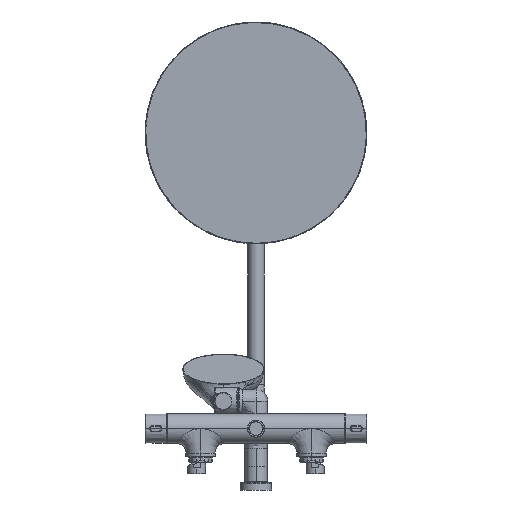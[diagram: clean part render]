
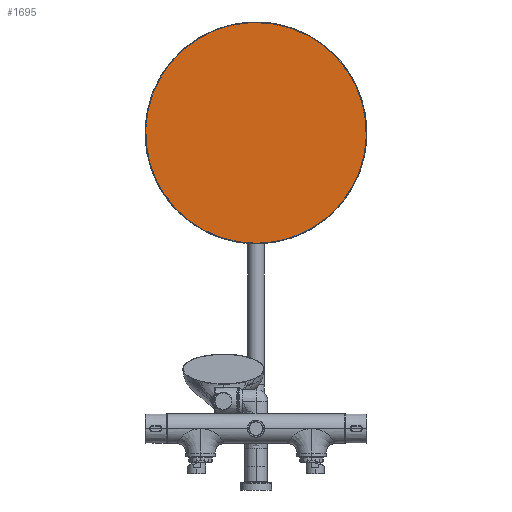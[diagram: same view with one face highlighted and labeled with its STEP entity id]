
A CAD part, front view. The second image highlights one B-rep face of the part: STEP entity #1695.
In plain terms, the highlighted planar face has unit normal (0, -1, 0).
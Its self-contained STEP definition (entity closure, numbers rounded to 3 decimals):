
#1340 = VERTEX_POINT ( 'NONE', #47149 ) ;
#1695 = ADVANCED_FACE ( 'NONE', ( #40995 ), #11870, .T. ) ;
#2253 = CARTESIAN_POINT ( 'NONE',  ( 0., 1112.297, 549.199 ) ) ;
#3445 =( BOUNDED_CURVE ( )  B_SPLINE_CURVE ( 3, ( #9149, #9945, #13966, #6057 ),
 .UNSPECIFIED., .F., .T. ) 
 B_SPLINE_CURVE_WITH_KNOTS ( ( 4, 4 ),
 ( 0.001, 1. ),
 .UNSPECIFIED. ) 
 CURVE ( )  GEOMETRIC_REPRESENTATION_ITEM ( )  RATIONAL_B_SPLINE_CURVE ( ( 1., 0.335, 0.335, 1. ) ) 
 REPRESENTATION_ITEM ( '' )  );
#3944 = EDGE_CURVE ( 'NONE', #22217, #1340, #3445, .T. ) ;
#4256 = CARTESIAN_POINT ( 'NONE',  ( 0., 1112.297, 250.801 ) ) ;
#5981 = CARTESIAN_POINT ( 'NONE',  ( 0.655, 1112.297, 549.197 ) ) ;
#6057 = CARTESIAN_POINT ( 'NONE',  ( 0., 1112.297, 549.199 ) ) ;
#6584 = CARTESIAN_POINT ( 'NONE',  ( 0., 1112.297, 250.801 ) ) ;
#8766 = CARTESIAN_POINT ( 'NONE',  ( -0.655, 1112.297, 250.803 ) ) ;
#8876 = ORIENTED_EDGE ( 'NONE', *, *, #3944, .F. ) ;
#9149 = CARTESIAN_POINT ( 'NONE',  ( -0.655, 1112.297, 250.803 ) ) ;
#9945 = CARTESIAN_POINT ( 'NONE',  ( -297.745, 1112.297, 252.107 ) ) ;
#11870 = PLANE ( 'NONE',  #17768 ) ;
#13966 = CARTESIAN_POINT ( 'NONE',  ( -297.093, 1112.297, 549.199 ) ) ;
#15193 = ORIENTED_EDGE ( 'NONE', *, *, #42367, .F. ) ;
#15579 = DIRECTION ( 'NONE',  ( 0., 0., -1. ) ) ;
#16894 = EDGE_LOOP ( 'NONE', ( #37975, #8876, #43722, #15193 ) ) ;
#17617 = CARTESIAN_POINT ( 'NONE',  ( 0.437, 1112.297, 549.198 ) ) ;
#17768 = AXIS2_PLACEMENT_3D ( 'NONE', #29953, #41150, #15579 ) ;
#18054 = CARTESIAN_POINT ( 'NONE',  ( -0.218, 1112.297, 250.801 ) ) ;
#18808 = VERTEX_POINT ( 'NONE', #36979 ) ;
#19140 = CARTESIAN_POINT ( 'NONE',  ( 0.655, 1112.297, 549.197 ) ) ;
#22217 = VERTEX_POINT ( 'NONE', #8766 ) ;
#23287 =( BOUNDED_CURVE ( )  B_SPLINE_CURVE ( 3, ( #2253, #47223, #17617, #5981 ),
 .UNSPECIFIED., .F., .F. ) 
 B_SPLINE_CURVE_WITH_KNOTS ( ( 4, 4 ),
 ( 0., 0.001 ),
 .UNSPECIFIED. ) 
 CURVE ( )  GEOMETRIC_REPRESENTATION_ITEM ( )  RATIONAL_B_SPLINE_CURVE ( ( 1., 1., 1., 1. ) ) 
 REPRESENTATION_ITEM ( '' )  );
#24810 = EDGE_CURVE ( 'NONE', #1340, #27359, #23287, .T. ) ;
#26186 =( BOUNDED_CURVE ( )  B_SPLINE_CURVE ( 3, ( #6584, #18054, #44093, #29326 ),
 .UNSPECIFIED., .F., .F. ) 
 B_SPLINE_CURVE_WITH_KNOTS ( ( 4, 4 ),
 ( 0., 0.001 ),
 .UNSPECIFIED. ) 
 CURVE ( )  GEOMETRIC_REPRESENTATION_ITEM ( )  RATIONAL_B_SPLINE_CURVE ( ( 1., 1., 1., 1. ) ) 
 REPRESENTATION_ITEM ( '' )  );
#26790 =( BOUNDED_CURVE ( )  B_SPLINE_CURVE ( 3, ( #28313, #40829, #44520, #4256 ),
 .UNSPECIFIED., .F., .F. ) 
 B_SPLINE_CURVE_WITH_KNOTS ( ( 4, 4 ),
 ( 0.001, 1. ),
 .UNSPECIFIED. ) 
 CURVE ( )  GEOMETRIC_REPRESENTATION_ITEM ( )  RATIONAL_B_SPLINE_CURVE ( ( 1., 0.335, 0.335, 1. ) ) 
 REPRESENTATION_ITEM ( '' )  );
#27359 = VERTEX_POINT ( 'NONE', #19140 ) ;
#28313 = CARTESIAN_POINT ( 'NONE',  ( 0.655, 1112.297, 549.197 ) ) ;
#29326 = CARTESIAN_POINT ( 'NONE',  ( -0.655, 1112.297, 250.803 ) ) ;
#29953 = CARTESIAN_POINT ( 'NONE',  ( 0., 1112.297, 400. ) ) ;
#36979 = CARTESIAN_POINT ( 'NONE',  ( 0., 1112.297, 250.801 ) ) ;
#37975 = ORIENTED_EDGE ( 'NONE', *, *, #24810, .F. ) ;
#40829 = CARTESIAN_POINT ( 'NONE',  ( 297.745, 1112.297, 547.893 ) ) ;
#40995 = FACE_OUTER_BOUND ( 'NONE', #16894, .T. ) ;
#41150 = DIRECTION ( 'NONE',  ( 0., -1., 0. ) ) ;
#42367 = EDGE_CURVE ( 'NONE', #27359, #18808, #26790, .T. ) ;
#43722 = ORIENTED_EDGE ( 'NONE', *, *, #44619, .F. ) ;
#44093 = CARTESIAN_POINT ( 'NONE',  ( -0.437, 1112.297, 250.802 ) ) ;
#44520 = CARTESIAN_POINT ( 'NONE',  ( 297.093, 1112.297, 250.801 ) ) ;
#44619 = EDGE_CURVE ( 'NONE', #18808, #22217, #26186, .T. ) ;
#47149 = CARTESIAN_POINT ( 'NONE',  ( 0., 1112.297, 549.199 ) ) ;
#47223 = CARTESIAN_POINT ( 'NONE',  ( 0.218, 1112.297, 549.199 ) ) ;
